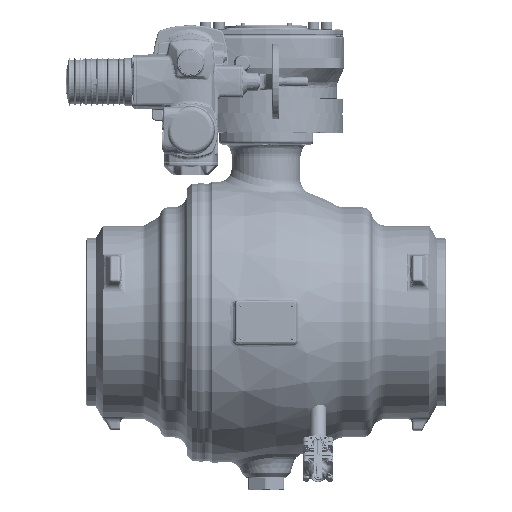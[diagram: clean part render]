
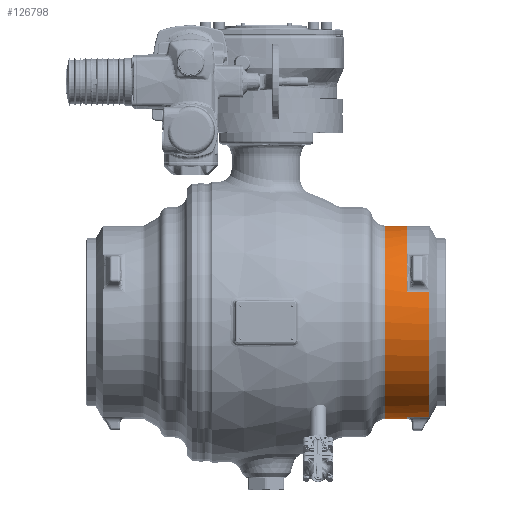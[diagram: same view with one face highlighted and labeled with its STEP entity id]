
A CAD part, top view. The second image highlights one B-rep face of the part: STEP entity #126798.
In plain terms, the highlighted cylindrical face has radius 205 mm (diameter 410 mm), a partial arc.
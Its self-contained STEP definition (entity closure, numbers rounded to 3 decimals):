
#24209=CARTESIAN_POINT('',(345.296,0.,0.));
#24210=DIRECTION('',(-1.,0.,0.));
#24211=DIRECTION('',(0.,-0.21,-0.978));
#24212=AXIS2_PLACEMENT_3D('',#24209,#24210,#24211);
#24214=DIRECTION('',(-1.,0.,0.));
#24215=VECTOR('',#24214,46.296);
#24216=CARTESIAN_POINT('',(345.296,-43.04,
-200.431));
#24217=LINE('',#24216,#24215);
#24218=DIRECTION('',(-1.,0.,0.));
#24219=VECTOR('',#24218,46.34);
#24220=CARTESIAN_POINT('',(299.,0.,-205.));
#24221=LINE('',#24220,#24219);
#24222=CARTESIAN_POINT('',(252.66,0.,0.));
#24223=DIRECTION('',(1.,0.,0.));
#24224=DIRECTION('',(0.,0.,1.));
#24225=AXIS2_PLACEMENT_3D('',#24222,#24223,#24224);
#24227=DIRECTION('',(-1.,0.,0.));
#24228=VECTOR('',#24227,46.34);
#24229=CARTESIAN_POINT('',(299.,0.,205.));
#24230=LINE('',#24229,#24228);
#24231=CARTESIAN_POINT('',(299.,0.,0.));
#24232=DIRECTION('',(-1.,0.,0.));
#24233=DIRECTION('',(0.,-0.698,0.716));
#24234=AXIS2_PLACEMENT_3D('',#24231,#24232,#24233);
#24236=DIRECTION('',(-1.,0.,0.));
#24237=VECTOR('',#24236,46.296);
#24238=CARTESIAN_POINT('',(345.296,-195.098,
62.942));
#24239=LINE('',#24238,#24237);
#24273=CARTESIAN_POINT('',(299.,-43.04,-200.431));
#24908=CARTESIAN_POINT('',(299.,-195.098,62.942));
#24910=CARTESIAN_POINT('',(299.,0.,0.));
#24911=DIRECTION('',(-1.,0.,0.));
#24912=DIRECTION('',(0.,-0.952,0.307));
#24913=AXIS2_PLACEMENT_3D('',#24910,#24911,#24912);
#45542=CARTESIAN_POINT('',(299.,0.,0.));
#45543=DIRECTION('',(-1.,0.,0.));
#45544=DIRECTION('',(0.,0.,-1.));
#45545=AXIS2_PLACEMENT_3D('',#45542,#45543,#45544);
#68987=CARTESIAN_POINT('',(252.66,0.,205.));
#68988=CARTESIAN_POINT('',(252.66,0.,-205.));
#68989=VERTEX_POINT('',#68987);
#68990=VERTEX_POINT('',#68988);
#69037=CARTESIAN_POINT('',(345.296,-43.04,
-200.431));
#69038=CARTESIAN_POINT('',(345.296,-195.098,
62.942));
#69039=VERTEX_POINT('',#69037);
#69040=VERTEX_POINT('',#69038);
#69055=CARTESIAN_POINT('',(299.,0.,-205.));
#69056=VERTEX_POINT('',#69055);
#69057=CARTESIAN_POINT('',(299.,0.,205.));
#69058=VERTEX_POINT('',#69057);
#69059=CARTESIAN_POINT('',(299.,-143.043,146.846));
#69060=VERTEX_POINT('',#69059);
#69102=VERTEX_POINT('',#24273);
#69145=VERTEX_POINT('',#24908);
#126774=CARTESIAN_POINT('',(420.95,0.,0.));
#126775=DIRECTION('',(-1.,0.,0.));
#126776=DIRECTION('',(0.,0.,1.));
#126777=AXIS2_PLACEMENT_3D('',#126774,#126775,#126776);
#126778=CYLINDRICAL_SURFACE('',#126777,205.);
#126779=ORIENTED_EDGE('',*,*,#126744,.F.);
#126781=ORIENTED_EDGE('',*,*,#126780,.T.);
#126783=ORIENTED_EDGE('',*,*,#126782,.F.);
#126785=ORIENTED_EDGE('',*,*,#126784,.T.);
#126787=ORIENTED_EDGE('',*,*,#126786,.F.);
#126789=ORIENTED_EDGE('',*,*,#126788,.F.);
#126791=ORIENTED_EDGE('',*,*,#126790,.F.);
#126793=ORIENTED_EDGE('',*,*,#126792,.F.);
#126795=ORIENTED_EDGE('',*,*,#126794,.F.);
#126796=EDGE_LOOP('',(#126779,#126781,#126783,#126785,#126787,#126789,#126791,
#126793,#126795));
#126797=FACE_OUTER_BOUND('',#126796,.F.);
#126798=ADVANCED_FACE('',(#126797),#126778,.T.);
#24213=CIRCLE('',#24212,205.);
#24226=CIRCLE('',#24225,205.);
#24235=CIRCLE('',#24234,205.);
#24914=CIRCLE('',#24913,205.);
#45546=CIRCLE('',#45545,205.);
#126744=EDGE_CURVE('',#69039,#69040,#24213,.T.);
#126780=EDGE_CURVE('',#69039,#69102,#24217,.T.);
#126782=EDGE_CURVE('',#69056,#69102,#45546,.T.);
#126784=EDGE_CURVE('',#69056,#68990,#24221,.T.);
#126786=EDGE_CURVE('',#68989,#68990,#24226,.T.);
#126788=EDGE_CURVE('',#69058,#68989,#24230,.T.);
#126790=EDGE_CURVE('',#69060,#69058,#24235,.T.);
#126792=EDGE_CURVE('',#69145,#69060,#24914,.T.);
#126794=EDGE_CURVE('',#69040,#69145,#24239,.T.);
